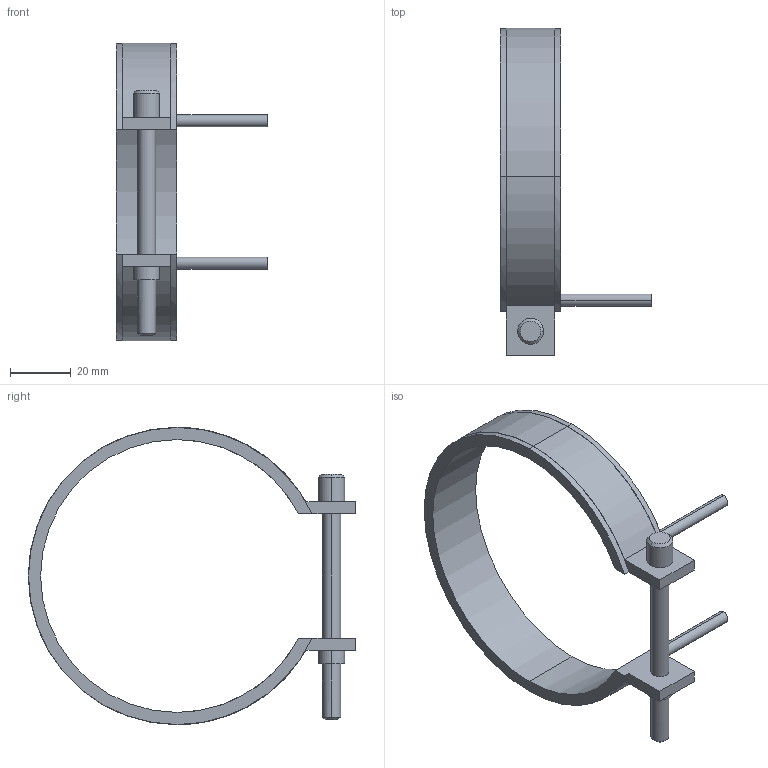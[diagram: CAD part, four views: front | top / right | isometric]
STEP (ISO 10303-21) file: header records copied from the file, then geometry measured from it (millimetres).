
FILE_DESCRIPTION(('CATIA V5 STEP Exchange'),'2;1');
FILE_NAME('C:\Users\Utente\Desktop\IO LAVORO\3D X SITO CF\X SITO\PLASTICA\RF2\14090020.stp','2021-04-06T16:13:56+00:00',('none'),('none'),'CATIA Version 5 Release 20 GA (IN-10)','CATIA V5 STEP AP203','none');
FILE_SCHEMA(('CONFIG_CONTROL_DESIGN'));
Length unit declared in the file: millimetre
Products named in the file (1): 14090020
Bounding box: 50 x 108.1 x 98.2 mm (x, y, z)
Volume: 25822.6 mm3; surface area: 15755.6 mm2
Topology: 1 solids, 1 shells, 45 faces, 116 edges, 76 vertices
Faces by surface type: cylinder 24, plane 17, cone 4
Entity records: 1412 total; most frequent: CARTESIAN_POINT 288, ORIENTED_EDGE 232, DIRECTION 195, EDGE_CURVE 116, AXIS2_PLACEMENT_3D 103, VERTEX_POINT 76, CIRCLE 61, VECTOR 52
